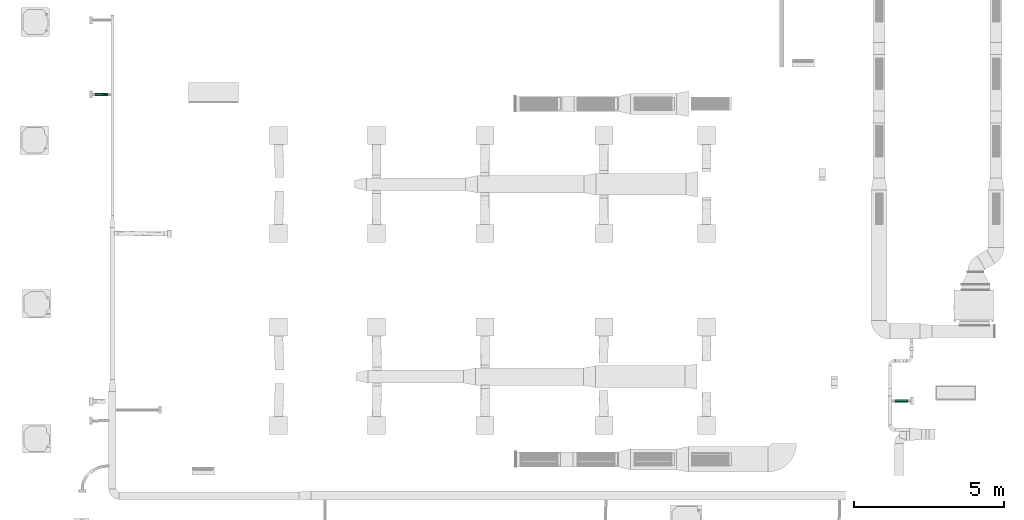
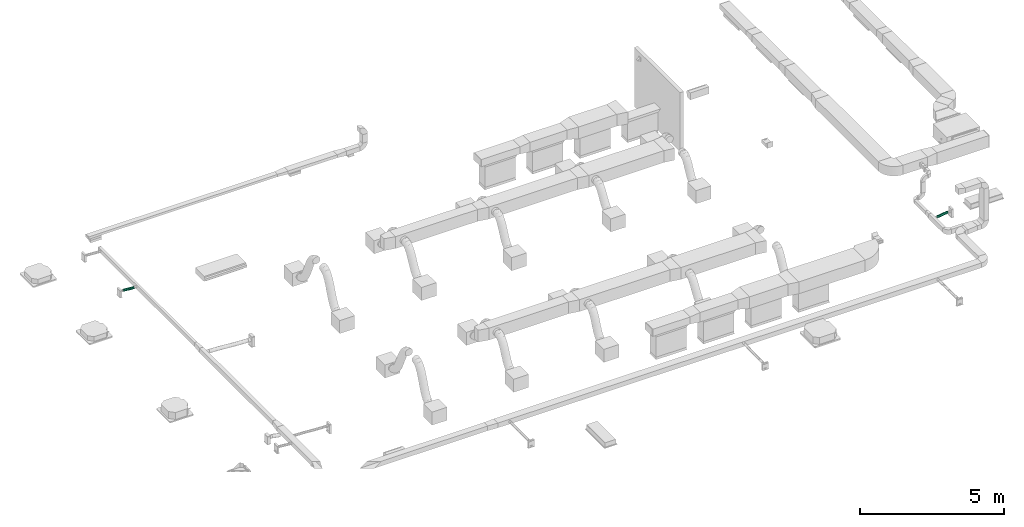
# One storey, part 55 of 60: 2 flow segments.
"""IFC2X3 building model written with IfcOpenShell, lengths in millimetres."""

from ifc_helpers import new_model, entity, si_unit, converted_unit, derived_unit, direction, frame, origin, place, context, subcontext, project, spatial, faceted_brep, type_object, element, save


model = new_model("IFC2X3")

# Units and contexts
model_context = context("Model", 3, precision=0.01, world=origin(), true_north=direction((6.123233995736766e-17, 1.0)))
body_context = subcontext(model_context, "Body", "Model", "MODEL_VIEW")
ifc_project = project(units=[si_unit("LENGTHUNIT", "METRE", prefix="MILLI"), converted_unit("PLANEANGLEUNIT", "DEGREE", entity("IfcPlaneAngleMeasure", 0.017453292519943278), si_unit("PLANEANGLEUNIT", "RADIAN"), dimensions=[0, 0, 0, 0, 0, 0, 0]), si_unit("AREAUNIT", "SQUARE_METRE"), derived_unit("THERMALTRANSMITTANCEUNIT", [(si_unit("MASSUNIT", "GRAM", prefix="KILO"), 1), (si_unit("THERMODYNAMICTEMPERATUREUNIT", "KELVIN"), -1), (si_unit("TIMEUNIT", "SECOND"), -3)])], contexts=[model_context])

# Site, building, storey
site_placement = place(None, origin())
site = spatial("IfcSite", under=ifc_project, at=site_placement, Name="Default", CompositionType="ELEMENT")
building_placement = place(site_placement, origin())
building = spatial("IfcBuilding", under=site, at=building_placement, Name="Praça Pedro II, 1301 - Centro (Sul), Teresina - PI, 64001-100", CompositionType="ELEMENT")
storey_placement = place(building_placement, frame((0.0, 0.0, 6040.0)))
storey = spatial("IfcBuildingStorey", under=building, at=storey_placement, Name="2PAV", CompositionType="ELEMENT", Elevation=6040.0)

# Flow segments
duct_segment_type = type_object("IfcDuctSegmentType", Name="Duto flexível redondo:Flexível - Redondo", PredefinedType="FLEXIBLESEGMENT")
flow_segment_1_placement = place(storey_placement, frame((9563.853908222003, -55309.86837180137, 2597.12453820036)))
element("IfcFlowSegment", 1, at=flow_segment_1_placement, inside=storey, type_object=duct_segment_type, Name="Duto flexível redondo:Flexível - Redondo", ObjectType="Duto flexível redondo:Flexível - Redondo", context=body_context, shape_type="Brep", body=[
    faceted_brep([(0.0, 8.29400204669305, 62.97549803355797), (0.0, 3.298980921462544, 75.03454577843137), (0.0, 1.5952722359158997, 87.9754980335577), (0.0, 3.298980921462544, 100.91645028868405), (0.0, 8.29400204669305, 112.97549803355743), (0.0, 16.239933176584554, 123.33083709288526), (0.0, 26.595272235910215, 131.27676822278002), (0.0, 38.654319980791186, 136.27178934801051), (0.0, 51.59527223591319, 137.97549803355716), (0.0, 64.53622449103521, 136.2717893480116), (0.0, 76.59527223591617, 131.27676822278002), (0.0, 86.95061129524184, 123.33083709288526), (0.0, 94.89654242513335, 112.97549803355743), (0.0, 99.89156355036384, 100.91645028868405), (0.0, 101.59527223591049, 87.9754980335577), (0.0, 99.89156355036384, 75.03454577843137), (0.0, 94.89654242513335, 62.97549803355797), (0.0, 86.95061129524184, 52.620158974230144), (0.0, 76.59527223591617, 44.67422784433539), (0.0, 64.53622449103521, 39.6792067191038), (0.0, 51.59527223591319, 37.97549803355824), (0.0, 38.654319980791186, 39.6792067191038), (0.0, 26.595272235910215, 44.67422784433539), (0.0, 16.239933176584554, 52.620158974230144), (2.6288065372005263, 99.89156355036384, 75.03454577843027), (2.245040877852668, 94.89654242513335, 62.97549803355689), (3.0585019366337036, 101.59527223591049, 87.9754980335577), (1.933357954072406, 86.95061129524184, 52.620158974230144), (1.6048431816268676, 64.53622449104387, 39.67920671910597), (1.6103990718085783, 51.59527223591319, 37.97549803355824), (1.714998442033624, 76.59527223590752, 44.674227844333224), (1.9592700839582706, 26.595272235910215, 44.67422784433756), (2.2788102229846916, 16.239933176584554, 52.620158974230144), (1.7312874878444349, 38.654319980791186, 39.679206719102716), (3.100703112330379, 3.298980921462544, 75.03454577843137), (3.547045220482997, 1.5952722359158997, 87.9754980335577), (2.668131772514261, 8.29400204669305, 62.97549803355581), (3.9767406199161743, 3.298980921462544, 100.91645028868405), (4.360506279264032, 8.29400204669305, 112.97549803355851), (4.672189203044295, 16.239933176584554, 123.33083709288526), (4.890548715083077, 26.59527223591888, 131.27676822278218), (5.0007039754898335, 38.654319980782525, 136.27178934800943), (4.995148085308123, 51.59527223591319, 137.97549803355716), (4.8742596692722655, 64.53622449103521, 136.27178934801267), (4.64627707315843, 76.59527223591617, 131.27676822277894), (4.326736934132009, 86.95061129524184, 123.33083709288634), (3.9374153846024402, 94.89654242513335, 112.9754980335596), (3.5048440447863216, 99.89156355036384, 100.91645028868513), (427.057214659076, 43.90531936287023, 3.298980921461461), (427.057214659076, 56.84627161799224, 1.5952722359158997), (427.057214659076, 69.78722387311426, 3.298980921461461), (427.057214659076, 81.84627161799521, 8.29400204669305), (427.057214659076, 92.20161067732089, 16.239933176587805), (427.057214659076, 100.14754180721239, 26.59527223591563), (427.057214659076, 105.14256293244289, 38.65431998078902), (427.057214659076, 106.84627161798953, 51.59527223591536), (427.057214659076, 105.14256293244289, 64.53622449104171), (427.057214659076, 100.14754180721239, 76.59527223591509), (427.057214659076, 92.20161067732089, 86.95061129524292), (427.057214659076, 81.84627161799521, 94.89654242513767), (427.057214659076, 69.78722387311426, 99.89156355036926), (427.057214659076, 56.84627161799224, 101.59527223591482), (427.057214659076, 43.90531936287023, 99.89156355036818), (427.057214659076, 31.84627161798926, 94.89654242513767), (427.057214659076, 21.490932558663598, 86.95061129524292), (427.057214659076, 13.545001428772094, 76.59527223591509), (427.057214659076, 8.549980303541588, 64.53622449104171), (427.057214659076, 6.846271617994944, 51.59527223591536), (427.057214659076, 8.549980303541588, 38.65431998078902), (427.057214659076, 13.545001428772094, 26.59527223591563), (427.057214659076, 21.490932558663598, 16.239933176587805), (427.057214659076, 31.84627161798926, 8.29400204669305), (140.5770409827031, 101.24101543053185, 65.68520853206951), (139.4995275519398, 96.23920785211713, 53.67317901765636), (141.78351309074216, 102.95232278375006, 78.57351533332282), (138.62440355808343, 88.28776496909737, 43.35602675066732), (138.01130725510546, 77.92856447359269, 35.436848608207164), (137.70202014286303, 65.86756875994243, 30.45532349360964), (137.71761962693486, 52.92671475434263, 28.750934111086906), (138.0570426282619, 39.98790027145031, 30.439831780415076), (138.6971580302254, 27.932884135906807, 35.40692091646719), (139.59434302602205, 17.58319577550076, 43.31370260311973), (141.9020029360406, 4.656777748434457, 65.62739267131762), (143.15521464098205, 2.9609621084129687, 78.51365994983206), (140.68745594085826, 9.644149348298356, 53.62134273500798), (144.36168674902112, 4.672269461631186, 91.40196675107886), (145.43920017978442, 9.674077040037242, 103.41399626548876), (146.31432417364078, 17.625519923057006, 113.73114853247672), (146.92742047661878, 27.98472041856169, 121.65032667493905), (147.23670758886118, 40.04571613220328, 126.63185178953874), (147.22110810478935, 52.9865701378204, 128.3362411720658), (146.8816851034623, 65.9253846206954, 126.64734350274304), (146.24156970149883, 77.9804007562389, 121.68025436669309), (145.34438470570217, 88.33008911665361, 113.77347268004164), (144.25127179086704, 96.26913554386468, 103.46583254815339), (143.03672479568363, 101.25650714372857, 91.45978261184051), (283.9020000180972, 105.48058174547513, 61.05711031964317), (282.69552791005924, 103.76927439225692, 48.16880351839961), (281.61801447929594, 98.76746681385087, 36.15677400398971), (280.7428904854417, 90.81602393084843, 25.83962173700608), (280.1297941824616, 80.45682343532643, 17.920443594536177), (279.82050707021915, 68.39582772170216, 12.938918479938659), (279.8361065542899, 55.454973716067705, 11.23452909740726), (280.17552955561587, 42.51615923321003, 12.923426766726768), (280.8156449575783, 30.461143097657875, 17.89051590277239), (281.71282995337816, 20.1114547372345, 25.79729758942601), (282.80594286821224, 12.172408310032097, 36.10493772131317), (284.0204898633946, 7.185036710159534, 48.110987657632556), (285.2737015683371, 5.489221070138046, 60.99725493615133), (286.48017367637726, 7.200528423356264, 73.88556173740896), (287.55768710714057, 12.202336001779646, 85.89759125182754), (288.4328111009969, 20.153778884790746, 96.21474351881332), (289.0459074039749, 30.51297938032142, 104.13392166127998), (289.35519451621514, 42.57397509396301, 109.11544677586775), (289.3395950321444, 55.51482909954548, 110.81983615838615), (289.00017203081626, 68.45364358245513, 109.13093848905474), (288.3600566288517, 80.50865971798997, 104.16384935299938), (287.46287163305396, 90.85834807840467, 96.25706766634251), (285.1552117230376, 103.78476610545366, 73.94337759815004), (286.36975871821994, 98.79739450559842, 85.9494275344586), (423.51016943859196, 106.8462716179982, 51.59527223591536), (423.0804740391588, 105.14256293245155, 38.65431998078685), (422.6967083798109, 100.14754180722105, 26.595272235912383), (422.38502545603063, 92.20161067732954, 16.239933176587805), (422.16666594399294, 81.84627161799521, 8.29400204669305), (422.05651068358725, 69.78722387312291, 3.298980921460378), (422.06206657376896, 56.846271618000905, 1.5952722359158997), (422.18295498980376, 43.90531936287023, 3.2989809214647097), (422.4109375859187, 31.846271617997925, 8.294002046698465), (422.730477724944, 21.490932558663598, 16.239933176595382), (423.11979927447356, 13.545001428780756, 26.595272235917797), (423.5523706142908, 8.549980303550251, 38.65431998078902), (423.99871272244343, 6.846271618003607, 51.59527223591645), (424.4284081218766, 8.549980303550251, 64.53622449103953), (424.81217378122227, 13.545001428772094, 76.59527223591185), (425.1238567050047, 21.490932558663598, 86.95061129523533), (425.3422162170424, 31.84627161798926, 94.89654242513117), (425.4523714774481, 43.90531936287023, 99.89156355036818), (425.44681558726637, 56.846271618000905, 101.595272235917), (425.32592717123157, 69.78722387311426, 99.89156355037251), (425.0979445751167, 81.84627161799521, 94.896542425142), (424.7784044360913, 92.20161067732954, 86.95061129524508), (423.95651154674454, 105.14256293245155, 64.53622449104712), (424.38908288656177, 100.14754180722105, 76.59527223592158)], [[[0, 1, 2, 3, 4, 5, 6, 7, 8, 9, 10, 11, 12, 13, 14, 15, 16, 17, 18, 19, 20, 21, 22, 23]], [[24, 25, 16, 15]], [[26, 24, 15, 14]], [[16, 25, 27, 17]], [[28, 29, 20, 19]], [[30, 28, 19, 18]], [[17, 27, 30, 18]], [[22, 31, 32, 23]], [[33, 31, 22, 21]], [[20, 29, 33, 21]], [[34, 35, 2, 1]], [[36, 34, 1, 0]], [[32, 36, 0, 23]], [[4, 3, 37, 38]], [[5, 4, 38, 39]], [[2, 35, 37, 3]], [[7, 6, 40, 41]], [[7, 41, 42, 8]], [[39, 40, 6, 5]], [[8, 42, 43, 9]], [[9, 43, 44, 10]], [[10, 44, 45, 11]], [[12, 46, 47, 13]], [[13, 47, 26, 14]], [[11, 45, 46, 12]], [[48, 49, 50, 51, 52, 53, 54, 55, 56, 57, 58, 59, 60, 61, 62, 63, 64, 65, 66, 67, 68, 69, 70, 71]], [[72, 73, 25, 24]], [[74, 72, 24, 26]], [[27, 25, 73, 75]], [[75, 76, 30, 27]], [[30, 76, 77, 28]], [[78, 29, 28, 77]], [[79, 80, 31, 33]], [[78, 79, 33, 29]], [[81, 32, 31, 80]], [[82, 83, 35, 34]], [[84, 82, 34, 36]], [[84, 36, 32, 81]], [[35, 83, 85, 37]], [[37, 85, 86, 38]], [[87, 39, 38, 86]], [[40, 88, 89, 41]], [[42, 41, 89, 90]], [[88, 40, 39, 87]], [[43, 42, 90, 91]], [[44, 43, 91, 92]], [[92, 93, 45, 44]], [[46, 45, 93, 94]], [[47, 46, 94, 95]], [[26, 47, 95, 74]], [[72, 74, 96, 97]], [[73, 72, 97, 98]], [[75, 73, 98, 99]], [[77, 76, 100, 101]], [[77, 101, 102, 78]], [[99, 100, 76, 75]], [[78, 102, 103, 79]], [[79, 103, 104, 80]], [[105, 81, 80, 104]], [[81, 105, 106, 84]], [[84, 106, 107, 82]], [[108, 83, 82, 107]], [[109, 110, 86, 85]], [[108, 109, 85, 83]], [[111, 87, 86, 110]], [[112, 88, 87, 111]], [[89, 88, 112, 113]], [[113, 114, 90, 89]], [[115, 116, 92, 91]], [[114, 115, 91, 90]], [[116, 117, 93, 92]], [[118, 96, 74, 95]], [[119, 118, 95, 94]], [[117, 119, 94, 93]], [[97, 96, 120, 121]], [[98, 97, 121, 122]], [[99, 98, 122, 123]], [[101, 100, 124, 125]], [[101, 125, 126, 102]], [[123, 124, 100, 99]], [[102, 126, 127, 103]], [[103, 127, 128, 104]], [[104, 128, 129, 105]], [[105, 129, 130, 106]], [[106, 130, 131, 107]], [[132, 108, 107, 131]], [[133, 134, 110, 109]], [[132, 133, 109, 108]], [[135, 111, 110, 134]], [[136, 112, 111, 135]], [[113, 112, 136, 137]], [[137, 138, 114, 113]], [[139, 140, 116, 115]], [[138, 139, 115, 114]], [[117, 116, 140, 141]], [[142, 120, 96, 118]], [[143, 142, 118, 119]], [[141, 143, 119, 117]], [[120, 55, 54, 121]], [[121, 54, 53, 122]], [[122, 53, 52, 123]], [[124, 51, 50, 125]], [[126, 125, 50, 49]], [[123, 52, 51, 124]], [[127, 126, 49, 48]], [[128, 127, 48, 71]], [[129, 128, 71, 70]], [[131, 130, 69, 68]], [[132, 131, 68, 67]], [[70, 69, 130, 129]], [[133, 132, 67, 66]], [[134, 133, 66, 65]], [[135, 134, 65, 64]], [[137, 136, 63, 62]], [[137, 62, 61, 138]], [[135, 64, 63, 136]], [[138, 61, 60, 139]], [[139, 60, 59, 140]], [[140, 59, 58, 141]], [[143, 57, 56, 142]], [[142, 56, 55, 120]], [[143, 141, 58, 57]]]),
])
flow_segment_2_placement = place(storey_placement, frame((36209.46892569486, -65518.01226415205, 2598.4047277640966)))
element("IfcFlowSegment", 2, at=flow_segment_2_placement, inside=storey, type_object=duct_segment_type, Name="Duto flexível redondo:Flexível - Redondo", ObjectType="Duto flexível redondo:Flexível - Redondo", context=body_context, shape_type="Brep", body=[
    faceted_brep([(0.0, 8.294002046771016, 26.59527223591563), (0.0, 3.2989809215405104, 38.65431998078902), (0.0, 1.5952722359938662, 51.59527223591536), (0.0, 3.2989809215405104, 64.53622449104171), (0.0, 8.294002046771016, 76.59527223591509), (0.0, 16.23993317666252, 86.95061129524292), (0.0, 26.595272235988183, 94.89654242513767), (0.0, 38.654319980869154, 99.89156355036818), (0.0, 51.59527223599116, 101.59527223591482), (0.0, 64.53622449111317, 99.89156355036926), (0.0, 76.59527223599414, 94.89654242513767), (0.0, 86.9506112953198, 86.95061129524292), (0.0, 94.89654242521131, 76.59527223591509), (0.0, 99.89156355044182, 64.53622449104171), (0.0, 101.59527223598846, 51.59527223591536), (0.0, 99.89156355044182, 38.65431998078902), (0.0, 94.89654242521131, 26.59527223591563), (0.0, 86.9506112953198, 16.239933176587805), (0.0, 76.59527223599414, 8.29400204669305), (0.0, 64.53622449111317, 3.298980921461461), (0.0, 51.59527223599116, 1.5952722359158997), (0.0, 38.654319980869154, 3.298980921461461), (0.0, 26.595272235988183, 8.29400204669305), (0.0, 16.23993317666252, 16.239933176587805), (5.078177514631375, 99.89156355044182, 38.65431998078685), (5.636656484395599, 94.89654242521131, 26.595272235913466), (6.116233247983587, 86.9506112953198, 16.239933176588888), (4.478855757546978, 101.59527223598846, 51.59527223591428), (6.484225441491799, 76.59527223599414, 8.294002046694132), (6.7155550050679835, 64.53622449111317, 3.298980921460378), (6.794457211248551, 51.59527223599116, 1.5952722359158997), (6.7155550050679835, 38.654319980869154, 3.298980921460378), (6.484225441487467, 26.595272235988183, 8.294002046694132), (6.116233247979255, 16.23993317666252, 16.239933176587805), (5.636656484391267, 8.294002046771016, 26.595272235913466), (5.078177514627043, 3.2989809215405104, 38.65431998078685), (4.478855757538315, 1.5952722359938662, 51.59527223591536), (3.8795340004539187, 3.2989809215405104, 64.53622449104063), (3.321055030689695, 8.294002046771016, 76.59527223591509), (2.8414782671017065, 16.23993317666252, 86.95061129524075), (2.2421565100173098, 38.654319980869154, 99.89156355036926), (2.163254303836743, 51.59527223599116, 101.59527223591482), (2.4734860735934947, 26.595272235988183, 94.89654242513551), (2.473486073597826, 76.59527223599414, 94.89654242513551), (2.841478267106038, 86.9506112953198, 86.95061129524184), (2.2421565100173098, 64.53622449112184, 99.8915635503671), (3.87953400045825, 99.89156355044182, 64.53622449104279), (3.3210550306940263, 94.89654242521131, 76.59527223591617), (431.75214585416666, 38.65431998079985, 53.29898092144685), (431.75214585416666, 51.59527223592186, 51.595272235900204), (431.75214585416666, 64.53622449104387, 53.29898092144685), (431.75214585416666, 76.59527223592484, 58.294002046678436), (431.75214585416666, 86.9506112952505, 66.23993317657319), (431.75214585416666, 94.896542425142, 76.59527223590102), (431.75214585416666, 99.89156355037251, 88.6543199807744), (431.75214585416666, 101.59527223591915, 101.59527223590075), (431.75214585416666, 99.89156355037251, 114.53622449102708), (431.75214585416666, 94.896542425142, 126.59527223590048), (431.75214585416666, 86.9506112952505, 136.9506112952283), (431.75214585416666, 76.59527223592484, 144.89654242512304), (431.75214585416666, 64.53622449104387, 149.89156355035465), (431.75214585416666, 51.59527223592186, 151.5952722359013), (431.75214585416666, 38.65431998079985, 149.89156355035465), (431.75214585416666, 26.59527223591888, 144.89654242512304), (431.75214585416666, 16.23993317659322, 136.9506112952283), (431.75214585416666, 8.294002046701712, 126.59527223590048), (431.75214585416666, 3.2989809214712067, 114.53622449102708), (431.75214585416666, 1.5952722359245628, 101.59527223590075), (431.75214585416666, 3.2989809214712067, 88.6543199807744), (431.75214585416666, 8.294002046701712, 76.59527223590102), (431.75214585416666, 16.23993317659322, 66.23993317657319), (431.75214585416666, 26.59527223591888, 58.294002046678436), (144.1311254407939, 101.59527223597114, 64.5582351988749), (145.80205360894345, 99.8915635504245, 51.71675282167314), (147.3591107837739, 94.89654242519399, 39.75039624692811), (148.69618609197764, 86.95061129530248, 29.474652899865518), (149.7221600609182, 76.59527223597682, 21.58979770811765), (150.36711426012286, 64.53622449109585, 16.63317052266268), (150.5870961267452, 51.59527223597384, 14.94255729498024), (150.36711426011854, 38.65431998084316, 16.633170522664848), (149.72216006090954, 26.595272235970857, 21.589797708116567), (148.69618609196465, 16.239933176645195, 29.474652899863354), (147.35911078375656, 8.29400204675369, 39.75039624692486), (145.80205360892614, 3.2989809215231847, 51.71675282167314), (144.1311254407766, 1.5952722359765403, 64.55823519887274), (142.46019727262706, 3.2989809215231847, 77.39971757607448), (140.90314009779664, 8.29400204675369, 89.3660741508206), (139.56606478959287, 16.239933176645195, 99.6418174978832), (138.5400908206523, 26.595272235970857, 107.52667268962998), (137.89513662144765, 38.654319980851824, 112.48329987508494), (137.67515475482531, 51.59527223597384, 114.17391310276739), (137.895136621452, 64.5362244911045, 112.48329987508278), (138.54009082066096, 76.59527223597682, 107.52667268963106), (139.56606478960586, 86.95061129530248, 99.64181749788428), (142.46019727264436, 99.8915635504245, 77.39971757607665), (140.90314009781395, 94.89654242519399, 89.36607415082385), (289.2919485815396, 99.89156355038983, 75.79082689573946), (290.84900575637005, 94.89654242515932, 63.824470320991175), (287.62102041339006, 101.59527223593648, 88.6323092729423), (292.1860810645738, 86.95061129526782, 53.54872697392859), (293.21205503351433, 76.5952722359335, 45.6638717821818), (293.857009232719, 64.53622449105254, 40.70724459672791), (294.07699109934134, 51.595272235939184, 39.01663136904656), (293.8570092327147, 38.65431998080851, 40.707244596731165), (293.2120550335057, 26.595272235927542, 45.663871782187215), (292.1860810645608, 16.23993317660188, 53.54872697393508), (289.29194858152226, 3.298980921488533, 75.79082689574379), (287.6210204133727, 1.5952722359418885, 88.63230927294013), (290.8490057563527, 8.294002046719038, 63.82447032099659), (285.9500922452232, 3.298980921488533, 101.4737916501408), (284.3930350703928, 8.294002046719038, 113.44014822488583), (283.055959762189, 16.239933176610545, 123.71589157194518), (282.02998579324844, 26.595272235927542, 131.60074676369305), (281.3850315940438, 38.65431998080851, 136.55737394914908), (281.1650497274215, 51.595272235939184, 138.2479871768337), (281.38503159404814, 64.53622449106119, 136.55737394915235), (282.02998579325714, 76.5952722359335, 131.6007467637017), (283.055959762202, 86.95061129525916, 123.715891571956), (284.3930350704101, 94.89654242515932, 113.4401482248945), (285.9500922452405, 99.89156355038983, 101.47379165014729), (427.8726118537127, 99.89156355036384, 88.65431998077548), (428.43109082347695, 94.89654242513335, 76.59527223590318), (427.27329009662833, 101.59527223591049, 101.59527223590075), (428.91066758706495, 86.9506112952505, 66.2399331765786), (429.27865978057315, 76.59527223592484, 58.29400204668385), (429.50998934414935, 64.53622449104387, 53.29898092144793), (429.5888915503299, 51.59527223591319, 51.595272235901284), (429.50998934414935, 38.65431998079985, 53.298980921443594), (429.27865978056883, 26.59527223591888, 58.29400204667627), (428.91066758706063, 16.23993317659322, 66.23993317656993), (427.8726118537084, 3.298980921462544, 88.65431998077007), (427.2732900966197, 1.5952722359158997, 101.59527223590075), (428.43109082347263, 8.29400204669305, 76.5952722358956), (426.6739683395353, 3.298980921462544, 114.53622449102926), (426.11548936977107, 8.29400204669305, 126.59527223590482), (425.63591260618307, 16.239933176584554, 136.95061129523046), (425.26792041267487, 26.59527223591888, 144.89654242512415), (425.0365908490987, 38.65431998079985, 149.8915635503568), (424.95768864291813, 51.59527223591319, 151.5952722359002), (425.0365908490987, 64.53622449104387, 149.89156355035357), (425.2679204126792, 76.59527223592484, 144.89654242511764), (425.6359126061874, 86.95061129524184, 136.95061129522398), (426.1154893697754, 94.89654242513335, 126.5952722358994), (426.6739683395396, 99.89156355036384, 114.53622449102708)], [[[0, 1, 2, 3, 4, 5, 6, 7, 8, 9, 10, 11, 12, 13, 14, 15, 16, 17, 18, 19, 20, 21, 22, 23]], [[16, 15, 24, 25]], [[17, 16, 25, 26]], [[14, 27, 24, 15]], [[19, 18, 28, 29]], [[20, 19, 29, 30]], [[26, 28, 18, 17]], [[20, 30, 31, 21]], [[21, 31, 32, 22]], [[22, 32, 33, 23]], [[0, 34, 35, 1]], [[1, 35, 36, 2]], [[23, 33, 34, 0]], [[37, 38, 4, 3]], [[36, 37, 3, 2]], [[4, 38, 39, 5]], [[40, 41, 8, 7]], [[42, 40, 7, 6]], [[5, 39, 42, 6]], [[10, 43, 44, 11]], [[45, 43, 10, 9]], [[8, 41, 45, 9]], [[46, 27, 14, 13]], [[47, 46, 13, 12]], [[44, 47, 12, 11]], [[48, 49, 50, 51, 52, 53, 54, 55, 56, 57, 58, 59, 60, 61, 62, 63, 64, 65, 66, 67, 68, 69, 70, 71]], [[27, 72, 73, 24]], [[24, 73, 74, 25]], [[75, 26, 25, 74]], [[28, 76, 77, 29]], [[29, 77, 78, 30]], [[76, 28, 26, 75]], [[31, 30, 78, 79]], [[32, 31, 79, 80]], [[80, 81, 33, 32]], [[34, 33, 81, 82]], [[35, 34, 82, 83]], [[36, 35, 83, 84]], [[85, 86, 38, 37]], [[84, 85, 37, 36]], [[39, 38, 86, 87]], [[88, 89, 40, 42]], [[87, 88, 42, 39]], [[41, 40, 89, 90]], [[91, 92, 43, 45]], [[90, 91, 45, 41]], [[93, 44, 43, 92]], [[94, 72, 27, 46]], [[95, 94, 46, 47]], [[95, 47, 44, 93]], [[96, 97, 74, 73]], [[98, 96, 73, 72]], [[99, 75, 74, 97]], [[100, 101, 77, 76]], [[100, 76, 75, 99]], [[102, 78, 77, 101]], [[103, 104, 80, 79]], [[102, 103, 79, 78]], [[104, 105, 81, 80]], [[106, 107, 84, 83]], [[108, 106, 83, 82]], [[105, 108, 82, 81]], [[85, 84, 107, 109]], [[86, 85, 109, 110]], [[87, 86, 110, 111]], [[89, 88, 112, 113]], [[90, 89, 113, 114]], [[111, 112, 88, 87]], [[90, 114, 115, 91]], [[91, 115, 116, 92]], [[117, 93, 92, 116]], [[93, 117, 118, 95]], [[95, 118, 119, 94]], [[98, 72, 94, 119]], [[120, 121, 97, 96]], [[122, 120, 96, 98]], [[123, 99, 97, 121]], [[124, 125, 101, 100]], [[124, 100, 99, 123]], [[126, 102, 101, 125]], [[127, 128, 104, 103]], [[126, 127, 103, 102]], [[105, 104, 128, 129]], [[130, 131, 107, 106]], [[132, 130, 106, 108]], [[129, 132, 108, 105]], [[109, 107, 131, 133]], [[110, 109, 133, 134]], [[111, 110, 134, 135]], [[113, 112, 136, 137]], [[114, 113, 137, 138]], [[135, 136, 112, 111]], [[114, 138, 139, 115]], [[115, 139, 140, 116]], [[116, 140, 141, 117]], [[117, 141, 142, 118]], [[118, 142, 143, 119]], [[122, 98, 119, 143]], [[120, 122, 55, 54]], [[121, 120, 54, 53]], [[123, 121, 53, 52]], [[125, 124, 51, 50]], [[126, 125, 50, 49]], [[123, 52, 51, 124]], [[126, 49, 48, 127]], [[127, 48, 71, 128]], [[128, 71, 70, 129]], [[132, 69, 68, 130]], [[130, 68, 67, 131]], [[132, 129, 70, 69]], [[131, 67, 66, 133]], [[133, 66, 65, 134]], [[134, 65, 64, 135]], [[136, 63, 62, 137]], [[137, 62, 61, 138]], [[135, 64, 63, 136]], [[139, 138, 61, 60]], [[140, 139, 60, 59]], [[141, 140, 59, 58]], [[143, 142, 57, 56]], [[122, 143, 56, 55]], [[58, 57, 142, 141]]]),
])

save(model, "model.ifc")
